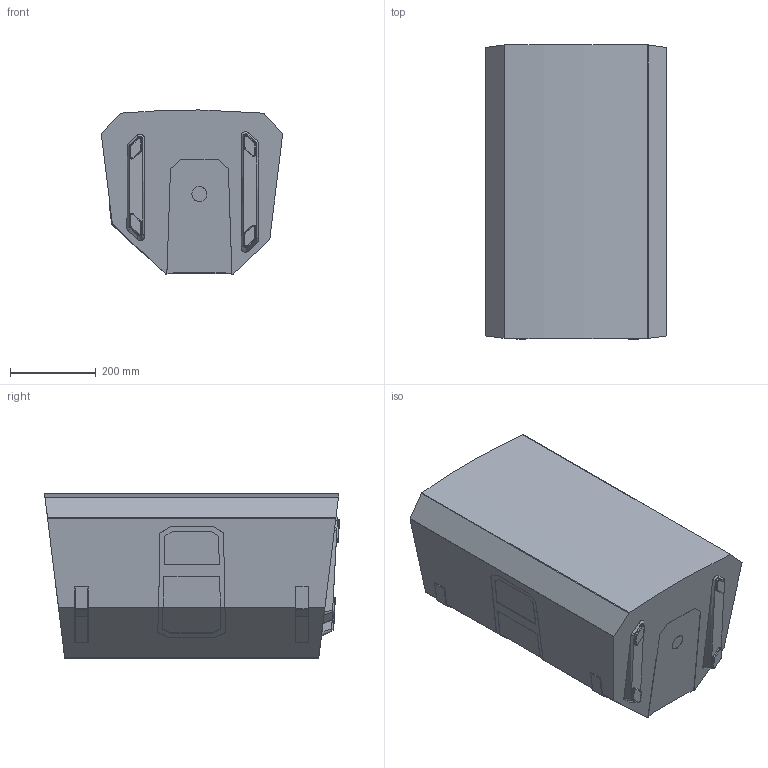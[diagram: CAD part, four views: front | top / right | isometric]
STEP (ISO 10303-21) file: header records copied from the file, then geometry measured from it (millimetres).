
FILE_DESCRIPTION (( 'STEP AP203' ), '1' );
FILE_NAME ('ZLX 15P_SIMPLIFIED.STEP', '2018-02-21T19:14:06', ( '' ), ( '' ), 'SwSTEP 2.0', 'SolidWorks 2016', '' );
FILE_SCHEMA (( 'CONFIG_CONTROL_DESIGN' ));
Length unit declared in the file: millimetre
Products named in the file (2): ZLX 15P_SIMPLIFIED
Bounding box: 422.88 x 688.04 x 382.89 mm (x, y, z)
Volume: 87228554.6 mm3; surface area: 1174963.3 mm2
Topology: 1 solids, 1 shells, 287 faces, 738 edges, 452 vertices
Faces by surface type: plane 143, bspline 71, cylinder 57, sphere 12, torus 4
Entity records: 13213 total; most frequent: CARTESIAN_POINT 6702, ORIENTED_EDGE 1452, DIRECTION 1104, EDGE_CURVE 726, VECTOR 480, LINE 480, VERTEX_POINT 452, AXIS2_PLACEMENT_3D 312
